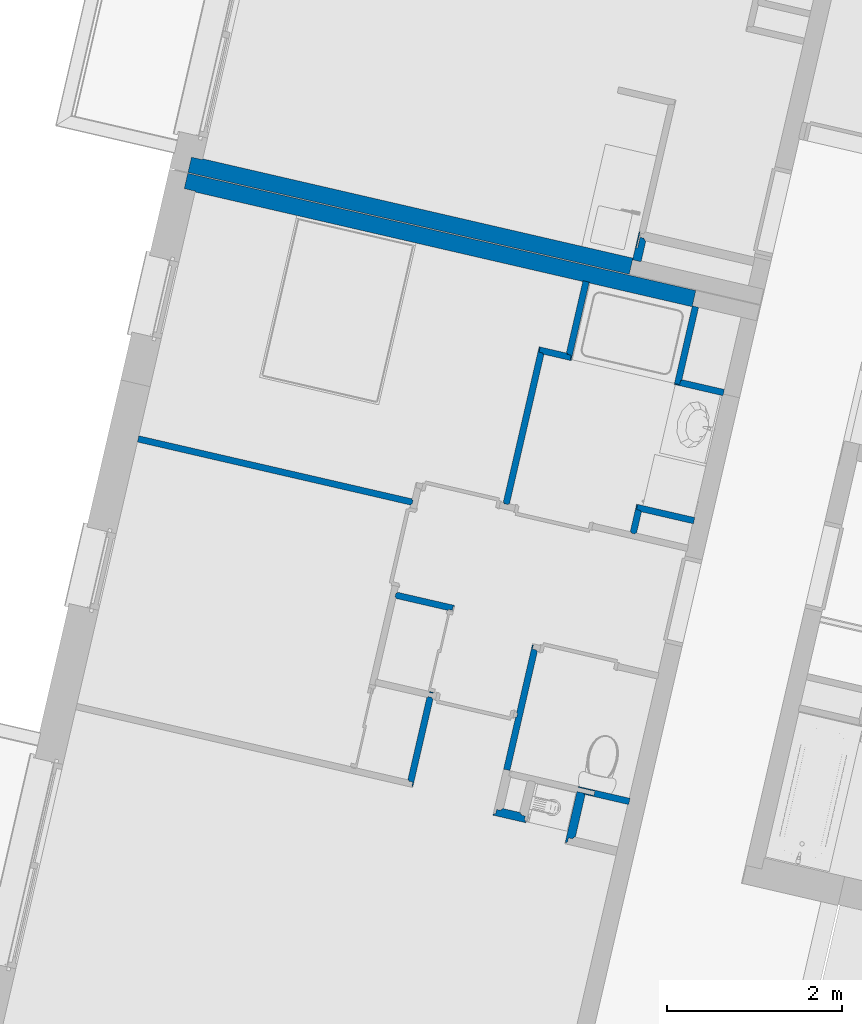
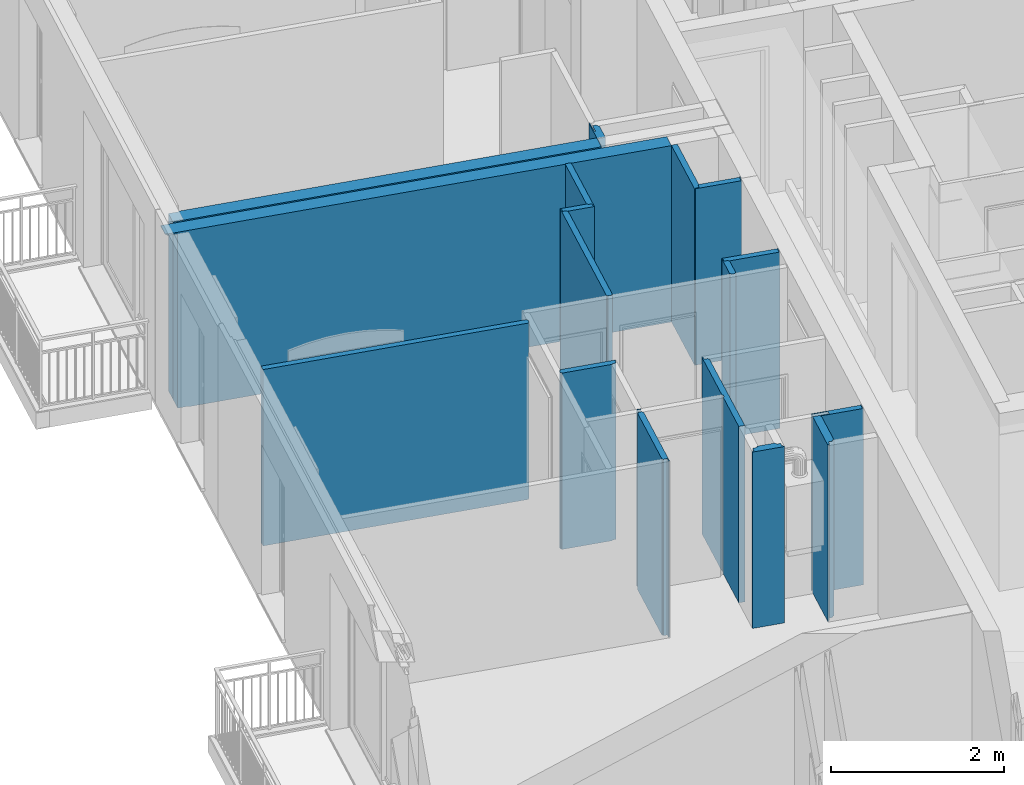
# One storey, part 27 of 62: 17 walls.
"""IFC2X3 building model written with IfcOpenShell, lengths in metres."""

from ifc_helpers import new_model, entity, si_unit, converted_unit, derived_unit, money_unit, direction, frame, origin_with_axes, place, context, subcontext, project, spatial, faceted_brep, material, material_list, type_object, element, save


model = new_model("IFC2X3")

# Units and contexts
model_context = context("Model", 3, precision=1e-05, world=origin_with_axes(), true_north=direction((0.0, 1.0)))
body_context = subcontext(model_context, "Body", "Model", "MODEL_VIEW")
ifc_project = project(units=[si_unit("LENGTHUNIT", "METRE"), si_unit("AREAUNIT", "SQUARE_METRE"), si_unit("VOLUMEUNIT", "CUBIC_METRE"), converted_unit("PLANEANGLEUNIT", "DEGREE", entity("IfcPlaneAngleMeasure", 0.0174532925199), si_unit("PLANEANGLEUNIT", "RADIAN"), dimensions=[0, 0, 0, 0, 0, 0, 0]), si_unit("SOLIDANGLEUNIT", "STERADIAN"), money_unit("EUR"), converted_unit("TIMEUNIT", "Year", entity("IfcTimeMeasure", 31556926.0), si_unit("TIMEUNIT", "SECOND"), dimensions=[0, 0, 1, 0, 0, 0, 0]), si_unit("MASSUNIT", "GRAM", prefix="KILO"), si_unit("THERMODYNAMICTEMPERATUREUNIT", "DEGREE_CELSIUS"), si_unit("LUMINOUSINTENSITYUNIT", "LUMEN"), si_unit("ENERGYUNIT", "JOULE", prefix="MEGA"), derived_unit("THERMALCONDUCTANCEUNIT", [(si_unit("POWERUNIT", "WATT"), 1), (si_unit("LENGTHUNIT", "METRE"), -1), (si_unit("THERMODYNAMICTEMPERATUREUNIT", "KELVIN"), -1)]), derived_unit("SPECIFICHEATCAPACITYUNIT", [(si_unit("ENERGYUNIT", "JOULE"), 1), (si_unit("MASSUNIT", "GRAM", prefix="KILO"), -1), (si_unit("THERMODYNAMICTEMPERATUREUNIT", "KELVIN"), -1)]), derived_unit("MASSDENSITYUNIT", [(si_unit("MASSUNIT", "GRAM", prefix="KILO"), 1), (si_unit("VOLUMEUNIT", "CUBIC_METRE"), -1)])], contexts=[model_context])

# Site, building, storey
site_placement = place(None, origin_with_axes())
site = spatial("IfcSite", under=ifc_project, at=site_placement, Name="Site", CompositionType="ELEMENT")
building_placement = place(site_placement, origin_with_axes())
building = spatial("IfcBuilding", under=site, at=building_placement, Name="Bâtiment", CompositionType="ELEMENT")
storey_placement = place(building_placement, frame((0.0, 0.0, 8.16), z_axis=(0.0, 0.0, 1.0), x_axis=(1.0, 0.0, 0.0)))
storey = spatial("IfcBuildingStorey", under=building, at=storey_placement, Name="R+3", CompositionType="ELEMENT", Elevation=8.16)

# Walls
ifc_material_1 = material(Name="Finition int - Plaque de plâtre")
ifc_material_2 = material(Name="Isolation - Laine de roche")
ifc_material_list_1 = material_list([ifc_material_1, ifc_material_2, ifc_material_1])
wall_type_1 = type_object("IfcWallType", Name="3 - Cloison 72mm Placostil 74", PredefinedType="USERDEFINED")
wall_1_placement = place(storey_placement, frame((-14.1354559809, -3.08704775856, 0.0), z_axis=(0.0, 0.0, 1.0), x_axis=(0.224876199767, 0.974387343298, 0.0)))
element("IfcWall", 1, at=wall_1_placement, inside=storey, type_object=wall_type_1, material=ifc_material_list_1, Name="Cloison Placostil 72/48", ObjectType="PARTITIONING", context=body_context, shape_type="Brep", body=[
    faceted_brep([(1.04099999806, 0.074, 2.49), (1.04099999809, 0.061, 2.49), (1.04099999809, 0.061, 0.0), (1.04099999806, 0.074, 0.0), (0.0739999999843, 0.061, 2.49), (0.0739999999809, 0.074, 2.49), (0.0739999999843, 0.061, 0.0), (0.0739999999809, 0.074, 0.0)], [[[0, 1, 2, 3]], [[4, 1, 0, 5]], [[1, 4, 6, 2]], [[3, 2, 6, 7]], [[5, 0, 3, 7]], [[4, 5, 7, 6]]]),
    faceted_brep([(1.05399999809, 0.061, 2.49), (1.05399999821, 0.013, 2.49), (1.05399999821, 0.013, 0.0), (1.05399999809, 0.061, 0.0), (0.0609999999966, 0.013, 2.49), (0.0609999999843, 0.061, 2.49), (0.0609999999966, 0.013, 0.0), (0.0609999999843, 0.061, 0.0)], [[[0, 1, 2, 3]], [[4, 1, 0, 5]], [[1, 4, 6, 2]], [[3, 2, 6, 7]], [[5, 0, 3, 7]], [[4, 5, 7, 6]]]),
    faceted_brep([(1.11499999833, 0.061, 2.49), (1.11499999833, 0.013, 2.49), (1.11499999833, 0.013, 0.0), (1.11499999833, 0.061, 0.0), (1.10199999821, 0.013, 2.49), (1.10199999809, 0.061, 2.49), (1.10199999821, 0.013, 0.0), (1.10199999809, 0.061, 0.0)], [[[0, 1, 2, 3]], [[4, 1, 0, 5]], [[1, 4, 6, 2]], [[7, 3, 2, 6]], [[5, 0, 3, 7]], [[4, 5, 7, 6]]]),
    faceted_brep([(1.04099999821, 0.013, 2.49), (1.04099999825, 0.0, 2.49), (1.04099999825, 0.0, 0.0), (1.04099999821, 0.013, 0.0), (0.013, 0.0, 2.49), (0.0129999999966, 0.013, 2.49), (0.013, 0.0, 0.0), (0.0129999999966, 0.013, 0.0)], [[[0, 1, 2, 3]], [[4, 1, 0, 5]], [[1, 4, 6, 2]], [[3, 2, 6, 7]], [[5, 0, 3, 7]], [[4, 5, 7, 6]]]),
])
wall_2_placement = place(storey_placement, frame((-11.4887028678, -3.32298952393, 0.0), z_axis=(0.0, 0.0, 1.0), x_axis=(-0.97438734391, 0.224876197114, 0.0)))
element("IfcWall", 2, at=wall_2_placement, inside=storey, type_object=wall_type_1, material=ifc_material_list_1, Name="Cloison Placostil 72/48", ObjectType="PARTITIONING", context=body_context, shape_type="Brep", body=[
    faceted_brep([(0.702999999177, -0.013, 2.49), (0.189999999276, -0.013, 2.49), (0.190000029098, -0.013, 2.5), (0.179999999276, -0.013, 2.5), (0.179999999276, -0.013, 0.0), (0.702999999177, -0.013, 0.0), (0.70299999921, 0.0, 2.49), (0.189999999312, 0.0, 2.49), (0.190000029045, 0.0, 2.5), (0.179999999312, 0.0, 2.5), (0.179999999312, 0.0, 0.0), (0.70299999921, 0.0, 0.0)], [[[0, 1, 2, 3, 4, 5]], [[1, 0, 6, 7]], [[8, 2, 1, 7]], [[2, 8, 9, 3]], [[10, 4, 3, 9]], [[10, 11, 5, 4]], [[6, 0, 5, 11]], [[7, 6, 11, 10, 9, 8]]]),
    faceted_brep([(0.589999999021, -0.061, 2.49), (0.189999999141, -0.061, 2.49), (0.190000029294, -0.061, 2.5), (0.179999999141, -0.061, 2.5), (0.179999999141, -0.061, 0.0), (0.589999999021, -0.061, 0.0), (0.589999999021, -0.013, 2.49), (0.189999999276, -0.013, 2.49), (0.190000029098, -0.013, 2.5), (0.179999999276, -0.013, 2.5), (0.179999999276, -0.013, 0.0), (0.589999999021, -0.013, 0.0)], [[[0, 1, 2, 3, 4, 5]], [[1, 0, 6, 7]], [[8, 2, 1, 7]], [[2, 8, 9, 3]], [[10, 4, 3, 9]], [[10, 11, 5, 4]], [[6, 0, 5, 11]], [[7, 6, 11, 10, 9, 8]]]),
    faceted_brep([(0.776999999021, -0.074, 2.49), (0.189999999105, -0.074, 2.49), (0.190000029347, -0.074, 2.5), (0.179999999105, -0.074, 2.5), (0.179999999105, -0.074, 0.0), (0.776999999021, -0.074, 0.0), (0.776999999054, -0.061, 2.49), (0.189999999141, -0.061, 2.49), (0.190000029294, -0.061, 2.5), (0.179999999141, -0.061, 2.5), (0.179999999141, -0.061, 0.0), (0.776999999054, -0.061, 0.0)], [[[0, 1, 2, 3, 4, 5]], [[1, 0, 6, 7]], [[8, 2, 1, 7]], [[2, 8, 9, 3]], [[10, 4, 3, 9]], [[10, 11, 5, 4]], [[6, 0, 5, 11]], [[7, 6, 11, 10, 9, 8]]]),
])
wall_3_placement = place(storey_placement, frame((-12.7629494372, -1.44021904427, 0.0), z_axis=(0.0, 0.0, 1.0), x_axis=(-0.224876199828, -0.974387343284, 0.0)))
element("IfcWall", 3, at=wall_3_placement, inside=storey, type_object=wall_type_1, material=ifc_material_list_1, Name="Cloison Placostil 72/48", ObjectType="PARTITIONING", context=body_context, shape_type="Brep", body=[
    faceted_brep([(0.0740000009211, 0.061, 2.49), (0.0740000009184, 0.074, 2.49), (0.0740000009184, 0.074, 0.0), (0.0740000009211, 0.061, 0.0), (1.47400000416, 0.074, 2.49), (1.47400000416, 0.061, 2.49), (1.47400000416, 0.074, 0.0), (1.47400000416, 0.061, 0.0)], [[[0, 1, 2, 3]], [[4, 1, 0, 5]], [[1, 4, 6, 2]], [[2, 6, 7, 3]], [[5, 0, 3, 7]], [[4, 5, 7, 6]]]),
    faceted_brep([(0.061000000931, 0.013, 2.49), (0.0610000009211, 0.061, 2.49), (0.0610000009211, 0.061, 0.0), (0.061000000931, 0.013, 0.0), (1.47400000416, 0.061, 2.49), (1.47400000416, 0.013, 2.49), (1.47400000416, 0.061, 0.0), (1.47400000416, 0.013, 0.0)], [[[0, 1, 2, 3]], [[4, 1, 0, 5]], [[1, 4, 6, 2]], [[2, 6, 7, 3]], [[5, 0, 3, 7]], [[4, 5, 7, 6]]]),
    faceted_brep([(0.859293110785, 0.0, 2.49), (0.859293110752, 0.013, 2.49), (0.859293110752, 0.013, 0.0), (0.859293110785, 0.0, 0.0), (1.47400000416, 0.013, 2.49), (1.47400000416, 0.0, 2.49), (1.47400000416, 0.013, 0.0), (1.47400000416, 0.0, 0.0)], [[[0, 1, 2, 3]], [[4, 1, 0, 5]], [[1, 4, 6, 2]], [[2, 6, 7, 3]], [[5, 0, 3, 7]], [[4, 5, 7, 6]]]),
    faceted_brep([(0.0130000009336, 0.0, 2.49), (0.013000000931, 0.013, 2.49), (0.013000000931, 0.013, 0.0), (0.0130000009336, 0.0, 0.0), (0.811293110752, 0.013, 2.49), (0.811293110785, 0.0, 2.49), (0.811293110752, 0.013, 0.0), (0.811293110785, 0.0, 0.0)], [[[0, 1, 2, 3]], [[4, 1, 0, 5]], [[1, 4, 6, 2]], [[6, 7, 3, 2]], [[5, 0, 3, 7]], [[4, 5, 7, 6]]]),
])
wall_4_placement = place(storey_placement, frame((-10.7305608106, -0.0379641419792, 0.0), z_axis=(0.0, 0.0, 1.0), x_axis=(-0.974387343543, 0.224876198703, 0.0)))
element("IfcWall", 4, at=wall_4_placement, inside=storey, type_object=wall_type_1, material=ifc_material_list_1, Name="Cloison Placostil 72/48", ObjectType="PARTITIONING", context=body_context, shape_type="Brep", body=[
    faceted_brep([(0.802999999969, 0.061, 2.49), (0.190000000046, 0.061, 2.49), (0.190000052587, 0.061, 2.5), (0.180000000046, 0.061, 2.5), (0.180000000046, 0.061, 0.0), (0.802999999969, 0.061, 0.0), (0.802999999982, 0.074, 2.49), (0.190000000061, 0.074, 2.49), (0.190000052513, 0.074, 2.5), (0.180000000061, 0.074, 2.5), (0.180000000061, 0.074, 0.0), (0.802999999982, 0.074, 0.0)], [[[0, 1, 2, 3, 4, 5]], [[1, 0, 6, 7]], [[8, 2, 1, 7]], [[2, 8, 9, 3]], [[9, 10, 4, 3]], [[11, 5, 4, 10]], [[6, 0, 5, 11]], [[7, 6, 11, 10, 9, 8]]]),
    faceted_brep([(0.850999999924, 0.013, 2.49), (0.189999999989, 0.013, 2.49), (0.190000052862, 0.013, 2.5), (0.179999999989, 0.013, 2.5), (0.179999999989, 0.013, 0.0), (0.850999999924, 0.013, 0.0), (0.850999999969, 0.061, 2.49), (0.190000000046, 0.061, 2.49), (0.190000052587, 0.061, 2.5), (0.180000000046, 0.061, 2.5), (0.180000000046, 0.061, 0.0), (0.850999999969, 0.061, 0.0)], [[[0, 1, 2, 3, 4, 5]], [[1, 0, 6, 7]], [[8, 2, 1, 7]], [[2, 8, 9, 3]], [[9, 10, 4, 3]], [[11, 5, 4, 10]], [[6, 0, 5, 11]], [[7, 6, 11, 10, 9, 8]]]),
    faceted_brep([(0.863999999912, 0.0, 2.49), (0.189999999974, 0.0, 2.49), (0.190000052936, 0.0, 2.5), (0.179999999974, 0.0, 2.5), (0.179999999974, 0.0, 0.0), (0.863999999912, 0.0, 0.0), (0.863999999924, 0.013, 2.49), (0.189999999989, 0.013, 2.49), (0.190000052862, 0.013, 2.5), (0.179999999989, 0.013, 2.5), (0.179999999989, 0.013, 0.0), (0.863999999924, 0.013, 0.0)], [[[0, 1, 2, 3, 4, 5]], [[1, 0, 6, 7]], [[8, 2, 1, 7]], [[2, 8, 9, 3]], [[9, 10, 4, 3]], [[11, 5, 4, 10]], [[6, 0, 5, 11]], [[7, 6, 11, 10, 9, 8]]]),
])
wall_5_placement = place(storey_placement, frame((-11.5724314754, 0.156328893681, 0.0), z_axis=(0.0, 0.0, 1.0), x_axis=(-0.224876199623, -0.974387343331, 0.0)))
element("IfcWall", 5, at=wall_5_placement, inside=storey, type_object=wall_type_1, material=ifc_material_list_1, Name="Cloison Placostil 72/48", ObjectType="PARTITIONING", context=body_context, shape_type="Brep", body=[
    faceted_brep([(0.0739999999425, 0.061, 2.49), (0.0739999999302, 0.074, 2.49), (0.0739999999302, 0.074, 0.0), (0.0739999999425, 0.061, 0.0), (0.324000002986, 0.074, 2.49), (0.324000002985, 0.061, 2.49), (0.324000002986, 0.074, 0.0), (0.324000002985, 0.061, 0.0)], [[[0, 1, 2, 3]], [[4, 1, 0, 5]], [[1, 4, 6, 2]], [[6, 7, 3, 2]], [[5, 0, 3, 7]], [[4, 5, 7, 6]]]),
    faceted_brep([(0.0609999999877, 0.013, 2.49), (0.0609999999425, 0.061, 2.49), (0.0609999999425, 0.061, 0.0), (0.0609999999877, 0.013, 0.0), (0.337000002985, 0.061, 2.49), (0.337000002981, 0.013, 2.49), (0.337000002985, 0.061, 0.0), (0.337000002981, 0.013, 0.0)], [[[0, 1, 2, 3]], [[4, 1, 0, 5]], [[1, 4, 6, 2]], [[6, 7, 3, 2]], [[5, 0, 3, 7]], [[4, 5, 7, 6]]]),
    faceted_brep([(0.013, 0.0, 2.49), (0.0129999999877, 0.013, 2.49), (0.0129999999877, 0.013, 0.0), (0.013, 0.0, 0.0), (0.324000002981, 0.013, 2.49), (0.324000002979, 0.0, 2.49), (0.324000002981, 0.013, 0.0), (0.324000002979, 0.0, 0.0)], [[[0, 1, 2, 3]], [[4, 1, 0, 5]], [[1, 4, 6, 2]], [[6, 7, 3, 2]], [[5, 0, 3, 7]], [[4, 5, 7, 6]]]),
])
wall_6_placement = place(storey_placement, frame((-13.6544457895, -1.00283323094, 0.0), z_axis=(0.0, 0.0, 1.0), x_axis=(-0.974387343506, 0.224876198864, 0.0)))
element("IfcWall", 6, at=wall_6_placement, inside=storey, type_object=wall_type_1, material=ifc_material_list_1, Name="Cloison Placostil 72/48", ObjectType="PARTITIONING", context=body_context, shape_type="Brep", body=[
    faceted_brep([(0.674000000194, 0.061, 2.49), (0.0610000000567, 0.061, 2.49), (0.0610000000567, 0.061, 0.0), (0.674000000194, 0.061, 0.0), (0.0610000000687, 0.074, 2.49), (0.674000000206, 0.074, 2.49), (0.0610000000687, 0.074, 0.0), (0.674000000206, 0.074, 0.0)], [[[0, 1, 2, 3]], [[4, 1, 0, 5]], [[1, 4, 6, 2]], [[7, 3, 2, 6]], [[5, 0, 3, 7]], [[4, 5, 7, 6]]]),
    faceted_brep([(0.687000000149, 0.013, 2.49), (0.0130000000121, 0.013, 2.49), (0.0130000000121, 0.013, 0.0), (0.687000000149, 0.013, 0.0), (0.0130000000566, 0.061, 2.49), (0.687000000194, 0.061, 2.49), (0.0130000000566, 0.061, 0.0), (0.687000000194, 0.061, 0.0)], [[[0, 1, 2, 3]], [[4, 1, 0, 5]], [[1, 4, 6, 2]], [[7, 3, 2, 6]], [[5, 0, 3, 7]], [[4, 5, 7, 6]]]),
    faceted_brep([(0.674000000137, 0.0, 2.49), (0.0, 0.0, 2.49), (0.0, 0.0, 0.0), (0.674000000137, 0.0, 0.0), (0.0, 0.013, 2.49), (0.674000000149, 0.013, 2.49), (0.0, 0.013, 0.0), (0.674000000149, 0.013, 0.0)], [[[0, 1, 2, 3]], [[4, 1, 0, 5]], [[1, 4, 6, 2]], [[7, 3, 2, 6]], [[5, 0, 3, 7]], [[4, 5, 7, 6]]]),
])
wall_7_placement = place(storey_placement, frame((-13.0436333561, 0.0874017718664, 0.0), z_axis=(0.0, 0.0, 1.0), x_axis=(0.224876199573, 0.974387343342, 0.0)))
element("IfcWall", 7, at=wall_7_placement, inside=storey, type_object=wall_type_1, material=ifc_material_list_1, Name="Cloison Placostil 72/48", ObjectType="PARTITIONING", context=body_context, shape_type="Brep", body=[
    faceted_brep([(1.88946721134, 0.074, 2.49), (1.88946721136, 0.061, 2.49), (1.88946721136, 0.061, 0.0), (1.88946721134, 0.074, 0.0), (0.0740000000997, 0.061, 2.49), (0.0740000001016, 0.074, 2.49), (0.0740000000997, 0.061, 0.0), (0.0740000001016, 0.074, 0.0)], [[[0, 1, 2, 3]], [[4, 1, 0, 5]], [[1, 4, 6, 2]], [[3, 2, 6, 7]], [[5, 0, 3, 7]], [[4, 5, 7, 6]]]),
    faceted_brep([(1.84146721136, 0.061, 2.49), (1.84146721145, 0.013, 2.49), (1.84146721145, 0.013, 0.0), (1.84146721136, 0.061, 0.0), (0.0610000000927, 0.013, 2.49), (0.0610000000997, 0.061, 2.49), (0.0610000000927, 0.013, 0.0), (0.0610000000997, 0.061, 0.0)], [[[0, 1, 2, 3]], [[4, 1, 0, 5]], [[1, 4, 6, 2]], [[3, 2, 6, 7]], [[5, 0, 3, 7]], [[4, 5, 7, 6]]]),
    faceted_brep([(1.82846721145, 0.013, 2.49), (1.82846721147, 0.0, 2.49), (1.82846721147, 0.0, 0.0), (1.82846721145, 0.013, 0.0), (0.0740000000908, 0.0, 2.49), (0.0740000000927, 0.013, 2.49), (0.0740000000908, 0.0, 0.0), (0.0740000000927, 0.013, 0.0)], [[[0, 1, 2, 3]], [[4, 1, 0, 5]], [[1, 4, 6, 2]], [[3, 2, 6, 7]], [[5, 0, 3, 7]], [[4, 5, 7, 6]]]),
])
wall_8_placement = place(storey_placement, frame((-12.3216051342, 1.79729698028, 0.0), z_axis=(0.0, 0.0, 1.0), x_axis=(-0.974387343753, 0.224876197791, 0.0)))
element("IfcWall", 8, at=wall_8_placement, inside=storey, type_object=wall_type_1, material=ifc_material_list_1, Name="Cloison Placostil 72/48", ObjectType="PARTITIONING", context=body_context, shape_type="Brep", body=[
    faceted_brep([(0.332020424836, -0.013, 2.49), (0.0, -0.013, 2.49), (0.0, -0.013, 0.0), (0.332020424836, -0.013, 0.0), (0.0, 0.0, 2.49), (0.332020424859, 0.0, 2.49), (0.0, 0.0, 0.0), (0.332020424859, 0.0, 0.0)], [[[0, 1, 2, 3]], [[4, 1, 0, 5]], [[1, 4, 6, 2]], [[7, 3, 2, 6]], [[5, 0, 3, 7]], [[4, 5, 7, 6]]]),
    faceted_brep([(0.380020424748, -0.061, 2.49), (0.0129999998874, -0.061, 2.49), (0.0129999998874, -0.061, 0.0), (0.380020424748, -0.061, 0.0), (0.012999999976, -0.013, 2.49), (0.380020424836, -0.013, 2.49), (0.012999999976, -0.013, 0.0), (0.380020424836, -0.013, 0.0)], [[[0, 1, 2, 3]], [[4, 1, 0, 5]], [[1, 4, 6, 2]], [[7, 3, 2, 6]], [[5, 0, 3, 7]], [[4, 5, 7, 6]]]),
    faceted_brep([(0.393020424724, -0.074, 2.49), (0.0609999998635, -0.074, 2.49), (0.0609999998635, -0.074, 0.0), (0.393020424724, -0.074, 0.0), (0.0609999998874, -0.061, 2.49), (0.393020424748, -0.061, 2.49), (0.0609999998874, -0.061, 0.0), (0.393020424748, -0.061, 0.0)], [[[0, 1, 2, 3]], [[4, 1, 0, 5]], [[1, 4, 6, 2]], [[7, 3, 2, 6]], [[5, 0, 3, 7]], [[4, 5, 7, 6]]]),
])
wall_9_placement = place(storey_placement, frame((-14.085182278, 0.127992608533, 0.0), z_axis=(0.0, 0.0, 1.0), x_axis=(-0.974387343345, 0.224876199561, 0.0)))
element("IfcWall", 9, at=wall_9_placement, inside=storey, type_object=wall_type_1, material=ifc_material_list_1, Name="Cloison Placostil 72/48", ObjectType="PARTITIONING", context=body_context, shape_type="Brep", body=[
    faceted_brep([(3.28428996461, -0.013, 2.49), (0.0740000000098, -0.013, 2.49), (0.0740000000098, -0.013, 0.0), (3.28428996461, -0.013, 0.0), (0.0740000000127, 0.0, 2.49), (3.28428996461, 0.0, 2.49), (0.0740000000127, 0.0, 0.0), (3.28428996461, 0.0, 0.0)], [[[0, 1, 2, 3]], [[4, 1, 0, 5]], [[1, 4, 6, 2]], [[6, 7, 3, 2]], [[5, 0, 3, 7]], [[4, 5, 7, 6]]]),
    faceted_brep([(3.28428996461, -0.061, 2.49), (0.0609999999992, -0.061, 2.49), (0.0609999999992, -0.061, 0.0), (3.28428996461, -0.061, 0.0), (0.0610000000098, -0.013, 2.49), (3.28428996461, -0.013, 2.49), (0.0610000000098, -0.013, 0.0), (3.28428996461, -0.013, 0.0)], [[[0, 1, 2, 3]], [[4, 1, 0, 5]], [[1, 4, 6, 2]], [[6, 7, 3, 2]], [[5, 0, 3, 7]], [[4, 5, 7, 6]]]),
    faceted_brep([(3.28428996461, -0.074, 2.49), (0.0739999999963, -0.074, 2.49), (0.0739999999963, -0.074, 0.0), (3.28428996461, -0.074, 0.0), (0.0739999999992, -0.061, 2.49), (3.28428996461, -0.061, 2.49), (0.0739999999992, -0.061, 0.0), (3.28428996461, -0.061, 0.0)], [[[0, 1, 2, 3]], [[4, 1, 0, 5]], [[1, 4, 6, 2]], [[6, 7, 3, 2]], [[5, 0, 3, 7]], [[4, 5, 7, 6]]]),
])
wall_10_placement = place(storey_placement, frame((-12.3216051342, 1.79729698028, 0.0), z_axis=(0.0, 0.0, 1.0), x_axis=(0.224876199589, 0.974387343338, 0.0)))
element("IfcWall", 10, at=wall_10_placement, inside=storey, type_object=wall_type_1, material=ifc_material_list_1, Name="Cloison Placostil 72/48", ObjectType="PARTITIONING", context=body_context, shape_type="Brep", body=[
    faceted_brep([(0.922999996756, 0.074, 2.49), (0.922999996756, 0.061, 2.49), (0.922999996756, 0.061, 0.0), (0.922999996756, 0.074, 0.0), (0.0739999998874, 0.061, 2.49), (0.0739999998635, 0.074, 2.49), (0.0739999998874, 0.061, 0.0), (0.0739999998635, 0.074, 0.0)], [[[0, 1, 2, 3]], [[4, 1, 0, 5]], [[1, 4, 6, 2]], [[7, 3, 2, 6]], [[5, 0, 3, 7]], [[4, 5, 7, 6]]]),
    faceted_brep([(0.922999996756, 0.061, 2.49), (0.922999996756, 0.013, 2.49), (0.922999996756, 0.013, 0.0), (0.922999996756, 0.061, 0.0), (0.060999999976, 0.013, 2.49), (0.0609999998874, 0.061, 2.49), (0.060999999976, 0.013, 0.0), (0.0609999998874, 0.061, 0.0)], [[[0, 1, 2, 3]], [[4, 1, 0, 5]], [[1, 4, 6, 2]], [[7, 3, 2, 6]], [[5, 0, 3, 7]], [[4, 5, 7, 6]]]),
    faceted_brep([(0.922999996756, 0.013, 2.49), (0.922999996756, 0.0, 2.49), (0.922999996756, 0.0, 0.0), (0.922999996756, 0.013, 0.0), (0.013, 0.0, 2.49), (0.012999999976, 0.013, 2.49), (0.013, 0.0, 0.0), (0.012999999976, 0.013, 0.0)], [[[0, 1, 2, 3]], [[4, 1, 0, 5]], [[1, 4, 6, 2]], [[7, 3, 2, 6]], [[5, 0, 3, 7]], [[4, 5, 7, 6]]]),
])
wall_type_2 = type_object("IfcWallType", Name="3 - Cloison Gaine Technique 72mm 74", PredefinedType="USERDEFINED")
wall_11_placement = place(storey_placement, frame((-10.5676316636, 1.46844738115, 0.0), z_axis=(0.0, 0.0, 1.0), x_axis=(-0.974387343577, 0.224876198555, 0.0)))
element("IfcWall", 11, at=wall_11_placement, inside=storey, type_object=wall_type_2, material=ifc_material_list_1, Name="Cloison Placostil 72/48", ObjectType="PARTITIONING", context=body_context, shape_type="Brep", body=[
    faceted_brep([(0.559999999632, 0.061, 2.49), (0.0100000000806, 0.061, 2.49), (0.010000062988, 0.061, 2.5), (0.0, 0.061, 2.5), (0.0, 0.061, 0.0), (0.559999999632, 0.061, 0.0), (0.559999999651, 0.074, 2.49), (0.0100000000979, 0.074, 2.49), (0.0100000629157, 0.074, 2.5), (0.0, 0.074, 2.5), (0.0, 0.074, 0.0), (0.559999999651, 0.074, 0.0)], [[[0, 1, 2, 3, 4, 5]], [[1, 0, 6, 7]], [[8, 2, 1, 7]], [[2, 8, 9, 3]], [[9, 10, 4, 3]], [[11, 5, 4, 10]], [[6, 0, 5, 11]], [[7, 6, 11, 10, 9, 8]]]),
    faceted_brep([(0.511999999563, 0.013, 2.49), (0.0100000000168, 0.013, 2.49), (0.0100000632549, 0.013, 2.5), (0.0, 0.013, 2.5), (0.0, 0.013, 0.0), (0.511999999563, 0.013, 0.0), (0.511999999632, 0.061, 2.49), (0.0100000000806, 0.061, 2.49), (0.010000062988, 0.061, 2.5), (0.0, 0.061, 2.5), (0.0, 0.061, 0.0), (0.511999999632, 0.061, 0.0)], [[[0, 1, 2, 3, 4, 5]], [[1, 0, 6, 7]], [[8, 2, 1, 7]], [[2, 8, 9, 3]], [[9, 10, 4, 3]], [[11, 5, 4, 10]], [[6, 0, 5, 11]], [[7, 6, 11, 10, 9, 8]]]),
    faceted_brep([(0.498999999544, 0.0, 2.49), (0.00999999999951, 0.0, 2.49), (0.0100000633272, 0.0, 2.5), (0.0, 0.0, 2.5), (0.0, 0.0, 0.0), (0.498999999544, 0.0, 0.0), (0.498999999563, 0.013, 2.49), (0.0100000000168, 0.013, 2.49), (0.0100000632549, 0.013, 2.5), (0.0, 0.013, 2.5), (0.0, 0.013, 0.0), (0.498999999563, 0.013, 0.0)], [[[0, 1, 2, 3, 4, 5]], [[1, 0, 6, 7]], [[8, 2, 1, 7]], [[2, 8, 9, 3]], [[9, 10, 4, 3]], [[11, 5, 4, 10]], [[6, 0, 5, 11]], [[7, 6, 11, 10, 9, 8]]]),
])
wall_12_placement = place(storey_placement, frame((-11.125955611, 1.59730144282, 0.0), z_axis=(0.0, 0.0, 1.0), x_axis=(0.224876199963, 0.974387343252, 0.0)))
element("IfcWall", 12, at=wall_12_placement, inside=storey, type_object=wall_type_2, material=ifc_material_list_1, Name="Cloison Placostil 72/48", ObjectType="PARTITIONING", context=body_context, shape_type="Brep", body=[
    faceted_brep([(0.84899999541, 0.0, 2.49), (0.84899999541, -0.013, 2.49), (0.84899999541, -0.013, 0.0), (0.84899999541, 0.0, 0.0), (-0.0739999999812, -0.013, 2.49), (-0.074, 0.0, 2.49), (-0.0739999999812, -0.013, 0.0), (-0.074, 0.0, 0.0)], [[[0, 1, 2, 3]], [[4, 1, 0, 5]], [[1, 4, 6, 2]], [[7, 3, 2, 6]], [[5, 0, 3, 7]], [[4, 5, 7, 6]]]),
    faceted_brep([(0.84899999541, -0.013, 2.49), (0.84899999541, -0.061, 2.49), (0.84899999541, -0.061, 0.0), (0.84899999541, -0.013, 0.0), (-0.0609999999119, -0.061, 2.49), (-0.0609999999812, -0.013, 2.49), (-0.0609999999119, -0.061, 0.0), (-0.0609999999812, -0.013, 0.0)], [[[0, 1, 2, 3]], [[4, 1, 0, 5]], [[1, 4, 6, 2]], [[7, 3, 2, 6]], [[5, 0, 3, 7]], [[4, 5, 7, 6]]]),
    faceted_brep([(0.84899999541, -0.061, 2.49), (0.84899999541, -0.074, 2.49), (0.84899999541, -0.074, 0.0), (0.84899999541, -0.061, 0.0), (-0.0129999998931, -0.074, 2.49), (-0.0129999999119, -0.061, 2.49), (-0.0129999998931, -0.074, 0.0), (-0.0129999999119, -0.061, 0.0)], [[[0, 1, 2, 3]], [[4, 1, 0, 5]], [[1, 4, 6, 2]], [[7, 3, 2, 6]], [[5, 0, 3, 7]], [[4, 5, 7, 6]]]),
])
ifc_material_3 = material(Name="Béton")
ifc_material_4 = material(Name="Finition int - Enduit plâtre")
ifc_material_list_2 = material_list([ifc_material_3, ifc_material_4])
wall_type_3 = type_object("IfcWallType", Name="2 - Murs Béton 18 + Enduit 1 Face 190", PredefinedType="USERDEFINED")
wall_13_placement = place(storey_placement, frame((-11.6572033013, 2.78621771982, 0.0), z_axis=(0.0, 0.0, 1.0), x_axis=(-0.97438734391, 0.224876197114, 0.0)))
element("IfcWall", 13, at=wall_13_placement, inside=storey, type_object=wall_type_3, material=ifc_material_list_2, Name="M_Ext-009", ObjectType="SOLIDWALL", context=body_context, shape_type="Brep", body=[
    faceted_brep([(0.0, -0.18, 0.0), (5.18231038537, -0.18, 0.0), (5.18231038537, -0.18, 2.5), (0.0, -0.18, 2.5), (0.0, 0.0, 0.0), (5.18231038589, 0.0, 0.0), (5.18231038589, 0.0, 2.5), (0.0, 0.0, 2.5)], [[[0, 1, 2, 3]], [[4, 5, 1, 0]], [[5, 6, 2, 1]], [[3, 2, 6, 7]], [[7, 4, 0, 3]], [[7, 6, 5, 4]]]),
    faceted_brep([(0.0, -0.19, 0.0), (5.05231038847, -0.19, 0.0), (5.05231038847, -0.19, 2.5), (0.0, -0.19, 2.5), (0.0, -0.18, 0.0), (5.0523103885, -0.18, 0.0), (5.0523103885, -0.18, 2.5), (0.0, -0.18, 2.5)], [[[0, 1, 2, 3]], [[4, 5, 1, 0]], [[5, 6, 2, 1]], [[3, 2, 6, 7]], [[7, 4, 0, 3]], [[7, 6, 5, 4]]]),
])
ifc_material_list_3 = material_list([ifc_material_4, ifc_material_3])
wall_14_placement = place(storey_placement, frame((-10.8945580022, 2.59994601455, 0.0), z_axis=(0.0, 0.0, 1.0), x_axis=(-0.974387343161, 0.224876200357, 0.0)))
element("IfcWall", 14, at=wall_14_placement, inside=storey, type_object=wall_type_3, material=ifc_material_list_3, Name="M_Ext-009", ObjectType="SOLIDWALL", context=body_context, shape_type="Brep", body=[
    faceted_brep([(6.09931038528, 0.18, 2.49), (0.0, 0.18, 2.49), (0.0, 0.18, 0.0), (5.83731038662, 0.18, 0.0), (5.83731038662, 0.18, 2.47), (5.96731038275, 0.18, 2.47), (6.09931038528, 0.18, 2.47), (0.0, 0.19, 2.49), (6.09931038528, 0.19, 2.49), (0.0, 0.19, 0.0), (5.83731038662, 0.19, 0.0), (5.83731038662, 0.19, 2.47), (5.96731038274, 0.19, 2.47), (6.09931038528, 0.19, 2.47)], [[[0, 1, 2, 3, 4, 5, 6]], [[7, 1, 0, 8]], [[1, 7, 9, 2]], [[9, 10, 3, 2]], [[11, 4, 3, 10]], [[5, 4, 11, 12]], [[12, 13, 6, 5]], [[8, 0, 6, 13]], [[7, 8, 13, 12, 11, 10, 9]]]),
    faceted_brep([(6.11931038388, 3.26478444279e-09, 2.49), (0.0, -1.37200166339e-07, 2.49), (0.0, 0.0, 0.0), (5.96731038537, 0.0, 0.0), (5.96731038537, 0.0, 2.47), (6.09931038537, 0.0, 2.47), (6.09931038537, 0.0, 2.48), (6.11931038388, 0.0, 2.48), (0.0, 0.18, 2.49), (6.11931038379, 0.18, 2.49), (0.0, 0.18, 0.0), (5.96731038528, 0.18, 0.0), (5.96731038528, 0.18, 2.47), (6.09931038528, 0.18, 2.47), (6.09931038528, 0.18, 2.48), (6.11931038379, 0.18, 2.48)], [[[0, 1, 2, 3, 4, 5, 6, 7]], [[8, 1, 0, 9]], [[1, 8, 10, 2]], [[10, 11, 3, 2]], [[12, 4, 3, 11]], [[12, 13, 5, 4]], [[14, 6, 5, 13]], [[14, 15, 7, 6]], [[9, 0, 7, 15]], [[8, 9, 15, 14, 13, 12, 11, 10]]]),
])
ifc_material_list_4 = material_list([ifc_material_1, ifc_material_1, ifc_material_2, ifc_material_1, ifc_material_1])
wall_type_4 = type_object("IfcWallType", Name="3 - Cloison Gaine Technique 98mm 100", PredefinedType="USERDEFINED")
wall_15_placement = place(storey_placement, frame((-12.3933945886, -3.72996973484, 0.0), z_axis=(0.0, 0.0, 1.0), x_axis=(0.224876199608, 0.974387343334, 0.0)))
element("IfcWall", 15, at=wall_15_placement, inside=storey, type_object=wall_type_4, material=ifc_material_list_4, Name="Cloison 98 isolée", ObjectType="PARTITIONING", context=body_context, shape_type="Brep", body=[
    faceted_brep([(0.613000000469, 0.0, 2.49), (0.613000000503, -0.013, 2.49), (0.613000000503, -0.013, 0.0), (0.613000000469, 0.0, 0.0), (0.0129999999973, -0.013, 2.49), (0.013, 0.0, 2.49), (0.0129999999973, -0.013, 0.0), (0.013, 0.0, 0.0)], [[[0, 1, 2, 3]], [[4, 1, 0, 5]], [[1, 4, 6, 2]], [[7, 3, 2, 6]], [[5, 0, 3, 7]], [[4, 5, 7, 6]]]),
    faceted_brep([(0.674000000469, 0.0, 2.49), (0.674000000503, -0.013, 2.49), (0.674000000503, -0.013, 0.0), (0.674000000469, 0.0, 0.0), (0.661000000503, -0.013, 2.49), (0.661000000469, 0.0, 2.49), (0.661000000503, -0.013, 0.0), (0.661000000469, 0.0, 0.0)], [[[0, 1, 2, 3]], [[4, 1, 0, 5]], [[1, 4, 6, 2]], [[2, 6, 7, 3]], [[5, 0, 3, 7]], [[4, 5, 7, 6]]]),
    faceted_brep([(0.613000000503, -0.013, 2.49), (0.613000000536, -0.026, 2.49), (0.613000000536, -0.026, 0.0), (0.613000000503, -0.013, 0.0), (0.0259999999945, -0.026, 2.49), (0.0259999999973, -0.013, 2.49), (0.0259999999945, -0.026, 0.0), (0.0259999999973, -0.013, 0.0)], [[[0, 1, 2, 3]], [[4, 1, 0, 5]], [[1, 4, 6, 2]], [[7, 3, 2, 6]], [[5, 0, 3, 7]], [[4, 5, 7, 6]]]),
    faceted_brep([(0.613000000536, -0.026, 2.49), (0.613000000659, -0.074, 2.49), (0.613000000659, -0.074, 0.0), (0.613000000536, -0.026, 0.0), (0.0739999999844, -0.074, 2.49), (0.0739999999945, -0.026, 2.49), (0.0739999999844, -0.074, 0.0), (0.0739999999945, -0.026, 0.0)], [[[0, 1, 2, 3]], [[4, 1, 0, 5]], [[1, 4, 6, 2]], [[7, 3, 2, 6]], [[5, 0, 3, 7]], [[4, 5, 7, 6]]]),
    faceted_brep([(0.613000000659, -0.074, 2.49), (0.613000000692, -0.087, 2.49), (0.613000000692, -0.087, 0.0), (0.613000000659, -0.074, 0.0), (0.0869999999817, -0.087, 2.49), (0.0869999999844, -0.074, 2.49), (0.0869999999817, -0.087, 0.0), (0.0869999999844, -0.074, 0.0)], [[[0, 1, 2, 3]], [[4, 1, 0, 5]], [[1, 4, 6, 2]], [[7, 3, 2, 6]], [[5, 0, 3, 7]], [[4, 5, 7, 6]]]),
    faceted_brep([(0.600000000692, -0.087, 2.49), (0.600000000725, -0.1, 2.49), (0.600000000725, -0.1, 0.0), (0.600000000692, -0.087, 0.0), (0.0999999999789, -0.1, 2.49), (0.0999999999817, -0.087, 2.49), (0.0999999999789, -0.1, 0.0), (0.0999999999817, -0.087, 0.0)], [[[0, 1, 2, 3]], [[4, 1, 0, 5]], [[1, 4, 6, 2]], [[7, 3, 2, 6]], [[5, 0, 3, 7]], [[4, 5, 7, 6]]]),
])
wall_16_placement = place(storey_placement, frame((-11.6189743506, 2.95186355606, 0.0), z_axis=(0.0, 0.0, 1.0), x_axis=(0.224876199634, 0.974387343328, 0.0)))
element("IfcWall", 16, at=wall_16_placement, inside=storey, type_object=wall_type_4, material=ifc_material_list_4, Name="Cloison 98 isolée", ObjectType="PARTITIONING", context=body_context, shape_type="Brep", body=[
    faceted_brep([(0.0, -0.013, 2.5), (0.330999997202, -0.013, 2.5), (0.330999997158, 0.0, 2.5), (0.0, 0.0, 2.5), (0.0, -0.013, 0.0), (0.330999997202, -0.013, 0.0), (0.330999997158, 0.0, 0.0), (0.0, 0.0, 0.0)], [[[0, 1, 2, 3]], [[4, 5, 1, 0]], [[6, 2, 1, 5]], [[3, 2, 6, 7]], [[7, 4, 0, 3]], [[7, 6, 5, 4]]]),
    faceted_brep([(0.0, -0.026, 0.0), (0.143999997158, -0.026, 0.0), (0.143999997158, -0.026, 2.5), (0.0, -0.026, 2.5), (0.0, -0.013, 0.0), (0.143999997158, -0.013, 0.0), (0.143999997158, -0.013, 2.5), (0.0, -0.013, 2.5)], [[[0, 1, 2, 3]], [[4, 5, 1, 0]], [[5, 6, 2, 1]], [[3, 2, 6, 7]], [[4, 0, 3, 7]], [[7, 6, 5, 4]]]),
    faceted_brep([(0.0, -0.074, 2.5), (0.269999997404, -0.074, 2.5), (0.269999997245, -0.026, 2.5), (0.0, -0.026, 2.5), (0.0, -0.074, 0.0), (0.269999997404, -0.074, 0.0), (0.269999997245, -0.026, 0.0), (0.0, -0.026, 0.0)], [[[0, 1, 2, 3]], [[4, 5, 1, 0]], [[6, 2, 1, 5]], [[3, 2, 6, 7]], [[7, 4, 0, 3]], [[7, 6, 5, 4]]]),
    faceted_brep([(0.0, -0.087, 2.5), (0.256999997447, -0.087, 2.5), (0.256999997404, -0.074, 2.5), (0.0, -0.074, 2.5), (0.0, -0.087, 0.0), (0.256999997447, -0.087, 0.0), (0.256999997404, -0.074, 0.0), (0.0, -0.074, 0.0)], [[[0, 1, 2, 3]], [[4, 5, 1, 0]], [[6, 2, 1, 5]], [[3, 2, 6, 7]], [[7, 4, 0, 3]], [[7, 6, 5, 4]]]),
    faceted_brep([(0.0, -0.1, 2.5), (0.243999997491, -0.1, 2.5), (0.243999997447, -0.087, 2.5), (0.0, -0.087, 2.5), (0.0, -0.1, 0.0), (0.243999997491, -0.1, 0.0), (0.243999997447, -0.087, 0.0), (0.0, -0.087, 0.0)], [[[0, 1, 2, 3]], [[4, 5, 1, 0]], [[6, 2, 1, 5]], [[3, 2, 6, 7]], [[7, 4, 0, 3]], [[7, 6, 5, 4]]]),
])
wall_17_placement = place(storey_placement, frame((-13.2161168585, -3.40379100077, 0.0), z_axis=(0.0, 0.0, 1.0), x_axis=(0.974387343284, -0.224876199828, 0.0)))
element("IfcWall", 17, at=wall_17_placement, inside=storey, type_object=wall_type_4, material=ifc_material_list_4, Name="Cloison 98 isolée", ObjectType="PARTITIONING", context=body_context, shape_type="Brep", body=[
    faceted_brep([(0.087, 0.1, 2.49), (0.302318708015, 0.1, 2.49), (0.302318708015, 0.1, 0.0), (0.087, 0.1, 0.0), (0.302156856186, 0.087, 2.49), (0.087, 0.087, 2.49), (0.302156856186, 0.087, 0.0), (0.087, 0.087, 0.0)], [[[0, 1, 2, 3]], [[4, 1, 0, 5]], [[1, 4, 6, 2]], [[2, 6, 7, 3]], [[5, 0, 3, 7]], [[4, 5, 7, 6]]]),
    faceted_brep([(0.074, 0.087, 2.49), (0.315157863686, 0.087, 2.49), (0.315157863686, 0.087, 0.0), (0.074, 0.087, 0.0), (0.314996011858, 0.074, 2.49), (0.074, 0.074, 2.49), (0.314996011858, 0.074, 0.0), (0.074, 0.074, 0.0)], [[[0, 1, 2, 3]], [[4, 1, 0, 5]], [[1, 4, 6, 2]], [[2, 6, 7, 3]], [[5, 0, 3, 7]], [[4, 5, 7, 6]]]),
    faceted_brep([(0.026, 0.074, 2.49), (0.362999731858, 0.074, 2.49), (0.362999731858, 0.074, 0.0), (0.026, 0.074, 0.0), (0.362402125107, 0.026, 2.49), (0.026, 0.026, 2.49), (0.362402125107, 0.026, 0.0), (0.026, 0.026, 0.0)], [[[0, 1, 2, 3]], [[4, 1, 0, 5]], [[1, 4, 6, 2]], [[2, 6, 7, 3]], [[5, 0, 3, 7]], [[4, 5, 7, 6]]]),
    faceted_brep([(0.013, 0.026, 2.49), (0.375403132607, 0.026, 2.49), (0.375403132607, 0.026, 0.0), (0.013, 0.026, 0.0), (0.375241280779, 0.013, 2.49), (0.013, 0.013, 2.49), (0.375241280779, 0.013, 0.0), (0.013, 0.013, 0.0)], [[[0, 1, 2, 3]], [[4, 1, 0, 5]], [[1, 4, 6, 2]], [[2, 6, 7, 3]], [[5, 0, 3, 7]], [[4, 5, 7, 6]]]),
    faceted_brep([(0.0, 0.013, 2.49), (0.388242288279, 0.013, 2.49), (0.388242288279, 0.013, 0.0), (0.0, 0.013, 0.0), (0.388080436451, 0.0, 2.49), (0.0, 0.0, 2.49), (0.388080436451, 0.0, 0.0), (0.0, 0.0, 0.0)], [[[0, 1, 2, 3]], [[4, 1, 0, 5]], [[1, 4, 6, 2]], [[2, 6, 7, 3]], [[5, 0, 3, 7]], [[4, 5, 7, 6]]]),
])

save(model, "model.ifc")
